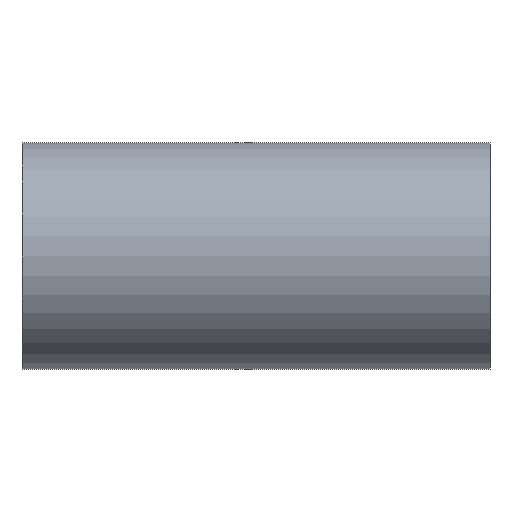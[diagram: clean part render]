
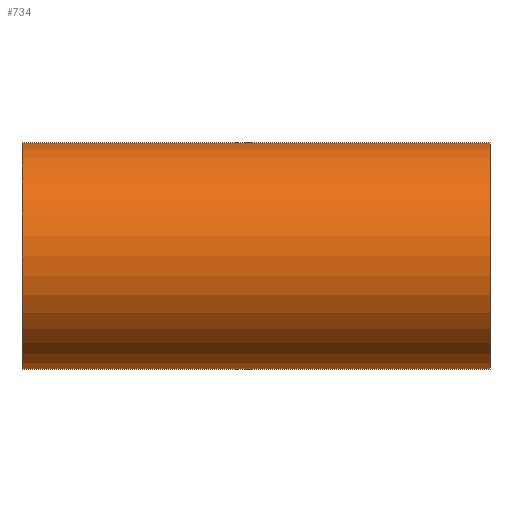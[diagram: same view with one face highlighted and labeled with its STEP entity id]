
A CAD part, front view. The second image highlights one B-rep face of the part: STEP entity #734.
In plain terms, the highlighted cylindrical face has radius 50.8 mm (diameter 101.6 mm), a partial arc.
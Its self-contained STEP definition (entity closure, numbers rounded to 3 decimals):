
#207 = ORIENTED_EDGE ( 'NONE', *, *, #1822, .T. ) ;
#242 = ORIENTED_EDGE ( 'NONE', *, *, #823, .T. ) ;
#268 = ORIENTED_EDGE ( 'NONE', *, *, #1491, .T. ) ;
#301 = LINE ( 'NONE', #923, #354 ) ;
#313 = AXIS2_PLACEMENT_3D ( 'NONE', #1035, #1023, #1010 ) ;
#354 = VECTOR ( 'NONE', #1999, 1000. ) ;
#493 = CIRCLE ( 'NONE', #313, 50.8 ) ;
#515 = VERTEX_POINT ( 'NONE', #1791 ) ;
#530 = EDGE_LOOP ( 'NONE', ( #992, #242, #268, #207 ) ) ;
#569 = DIRECTION ( 'NONE',  ( 0., 0., -1. ) ) ;
#734 = ADVANCED_FACE ( 'NONE', ( #1867 ), #1964, .T. ) ;
#823 = EDGE_CURVE ( 'NONE', #1904, #515, #1066, .T. ) ;
#921 = CARTESIAN_POINT ( 'NONE',  ( -104.8, 0., 50.8 ) ) ;
#923 = CARTESIAN_POINT ( 'NONE',  ( -104.8, 0., 50.8 ) ) ;
#934 = DIRECTION ( 'NONE',  ( 1., 0., 0. ) ) ;
#992 = ORIENTED_EDGE ( 'NONE', *, *, #1154, .F. ) ;
#1010 = DIRECTION ( 'NONE',  ( 0., 0., -1. ) ) ;
#1023 = DIRECTION ( 'NONE',  ( -1., 0., 0. ) ) ;
#1035 = CARTESIAN_POINT ( 'NONE',  ( 104.8, 0., 0. ) ) ;
#1066 = CIRCLE ( 'NONE', #1184, 50.8 ) ;
#1154 = EDGE_CURVE ( 'NONE', #1904, #1290, #301, .T. ) ;
#1184 = AXIS2_PLACEMENT_3D ( 'NONE', #2059, #1790, #1525 ) ;
#1253 = CARTESIAN_POINT ( 'NONE',  ( 104.8, 0., 50.8 ) ) ;
#1290 = VERTEX_POINT ( 'NONE', #1253 ) ;
#1491 = EDGE_CURVE ( 'NONE', #515, #1676, #2029, .T. ) ;
#1525 = DIRECTION ( 'NONE',  ( 0., 0., -1. ) ) ;
#1560 = CARTESIAN_POINT ( 'NONE',  ( -104.8, 0., 0. ) ) ;
#1578 = CARTESIAN_POINT ( 'NONE',  ( 104.8, 0., -50.8 ) ) ;
#1676 = VERTEX_POINT ( 'NONE', #1578 ) ;
#1714 = DIRECTION ( 'NONE',  ( 1., 0., 0. ) ) ;
#1762 = CARTESIAN_POINT ( 'NONE',  ( -104.8, 0., -50.8 ) ) ;
#1790 = DIRECTION ( 'NONE',  ( 1., 0., 0. ) ) ;
#1791 = CARTESIAN_POINT ( 'NONE',  ( -104.8, 0., -50.8 ) ) ;
#1822 = EDGE_CURVE ( 'NONE', #1676, #1290, #493, .T. ) ;
#1867 = FACE_OUTER_BOUND ( 'NONE', #530, .T. ) ;
#1903 = AXIS2_PLACEMENT_3D ( 'NONE', #1560, #934, #569 ) ;
#1904 = VERTEX_POINT ( 'NONE', #921 ) ;
#1964 = CYLINDRICAL_SURFACE ( 'NONE', #1903, 50.8 ) ;
#1999 = DIRECTION ( 'NONE',  ( 1., 0., 0. ) ) ;
#2006 = VECTOR ( 'NONE', #1714, 1000. ) ;
#2029 = LINE ( 'NONE', #1762, #2006 ) ;
#2059 = CARTESIAN_POINT ( 'NONE',  ( -104.8, 0., 0. ) ) ;
